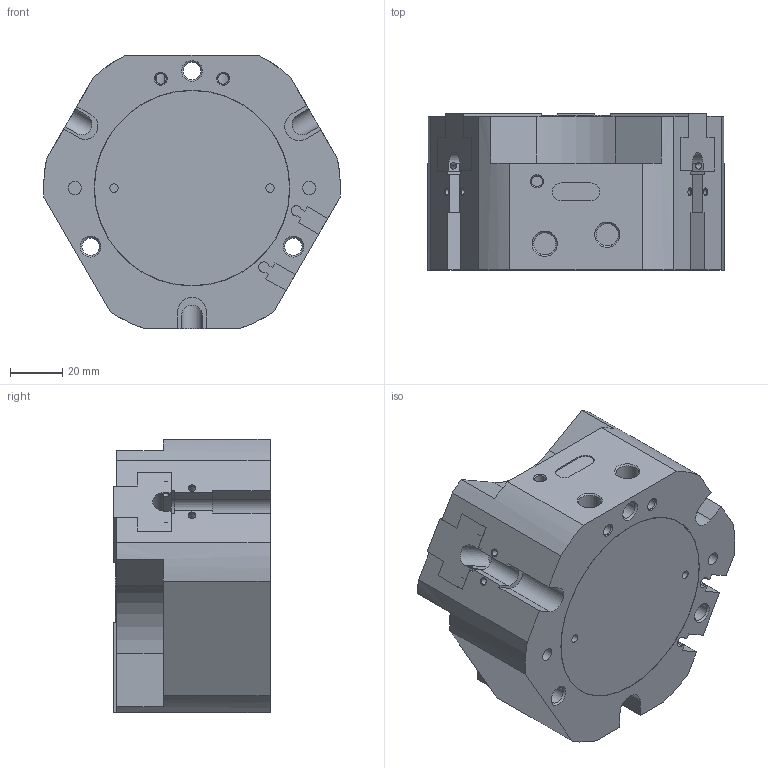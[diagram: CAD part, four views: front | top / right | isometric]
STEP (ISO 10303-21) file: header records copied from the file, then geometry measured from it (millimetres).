
FILE_DESCRIPTION( ( 'STEP AP214' ), '1' );
FILE_NAME( 'C:/Users/ashearer/Desktop/Mindman New CAD/Grippers/MCHJ-100-SD_0_.stp', ' ', ( ' ' ), ( ' ' ), 'PSStep 15.0.47', 'PARTsolutions', ' ' );
FILE_SCHEMA( ( 'AUTOMOTIVE_DESIGN { 1 0 10303 214 1 1 1 1 }' ) );
Length unit declared in the file: millimetre
Products named in the file (4): MCHJ-100-SD(0); _MCHJ-100-SD(dummy_0); _MCHJ-100-SD-body; _MCHJ-100-SD-finger
Assembly tree (5 placements, depth 2):
  MCHJ-100-SD(0)
    _MCHJ-100-SD(dummy_0)
    _MCHJ-100-SD-body
    _MCHJ-100-SD-finger  x3
Bounding box: 113.99 x 60 x 105 mm (x, y, z)
Volume: 468964.2 mm3; surface area: 78511.4 mm2
Topology: 4 solids, 4 shells, 404 faces, 1028 edges, 671 vertices
Faces by surface type: plane 275, cylinder 98, cone 31
Full cylindrical faces by diameter (mm): 2.013 x6, 2.459 x6, 2.5 x6, 3.2 x2, 3.6 x6, 4.134 x9, 5 x2, 6.647 x3, 8.566 x2, 10 x6, 11 x3, 75 x1, 75.2 x1
Entity records: 10514 total; most frequent: CARTESIAN_POINT 1539, DIRECTION 1388, ORIENTED_EDGE 1276, EDGE_CURVE 638, AXIS2_PLACEMENT_3D 470, VERTEX_POINT 456, LINE 448, VECTOR 448
